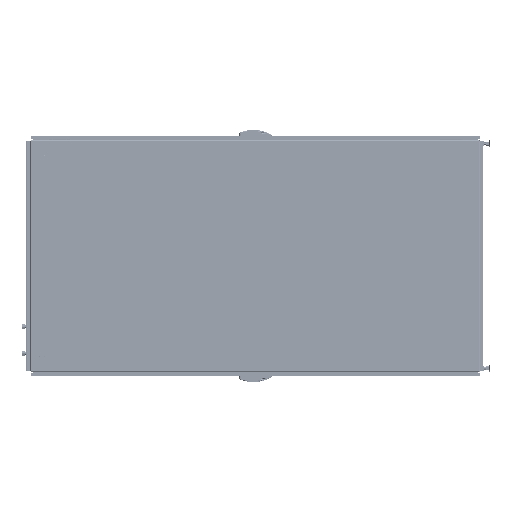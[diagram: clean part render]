
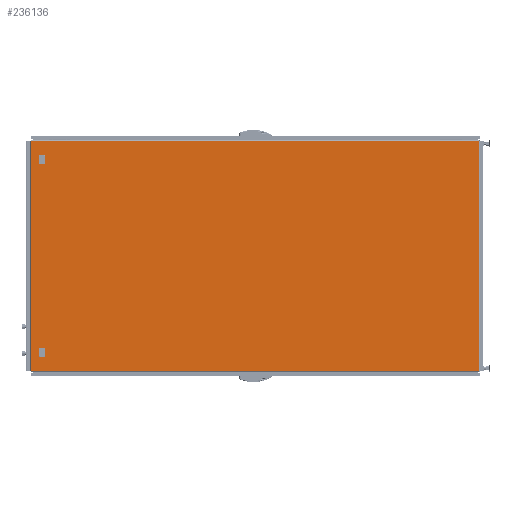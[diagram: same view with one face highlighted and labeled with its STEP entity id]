
A CAD part, left-side view. The second image highlights one B-rep face of the part: STEP entity #236136.
In plain terms, the highlighted planar face has unit normal (-1, 0, 0) as drawn and (0, 0, 1) by its records, which use the part's own axes.
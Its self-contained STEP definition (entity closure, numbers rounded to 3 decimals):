
#841 = CARTESIAN_POINT ( 'NONE',  ( 498.6, 2193.003, 0. ) ) ;
#6902 = CARTESIAN_POINT ( 'NONE',  ( -498.6, 2193.003, 0. ) ) ;
#9107 = VERTEX_POINT ( 'NONE', #244060 ) ;
#9882 = VERTEX_POINT ( 'NONE', #210379 ) ;
#10533 = VERTEX_POINT ( 'NONE', #307000 ) ;
#12909 = CARTESIAN_POINT ( 'NONE',  ( -498.6, 2167.603, 0. ) ) ;
#22590 = CARTESIAN_POINT ( 'NONE',  ( 573.779, 2234.682, 0. ) ) ;
#24344 = EDGE_CURVE ( 'NONE', #87011, #228015, #180787, .T. ) ;
#28144 = DIRECTION ( 'NONE',  ( -1., 0., 0. ) ) ;
#29019 = LINE ( 'NONE', #6902, #220629 ) ;
#33389 = DIRECTION ( 'NONE',  ( 1., 0., 0. ) ) ;
#38466 = DIRECTION ( 'NONE',  ( 0., 1., 0. ) ) ;
#43406 = CARTESIAN_POINT ( 'NONE',  ( 573.779, 2234.682, 0. ) ) ;
#45348 = EDGE_CURVE ( 'NONE', #10533, #268043, #153809, .T. ) ;
#48267 = DIRECTION ( 'NONE',  ( 0., -1., 0. ) ) ;
#49331 = LINE ( 'NONE', #277808, #392170 ) ;
#54729 = AXIS2_PLACEMENT_3D ( 'NONE', #393227, #126906, #69271 ) ;
#63655 = ORIENTED_EDGE ( 'NONE', *, *, #24344, .F. ) ;
#67688 = EDGE_LOOP ( 'NONE', ( #275848, #396064, #391924, #131729 ) ) ;
#69271 = DIRECTION ( 'NONE',  ( -1., 0., 0. ) ) ;
#72282 = DIRECTION ( 'NONE',  ( 0., 1., 0. ) ) ;
#73677 = CARTESIAN_POINT ( 'NONE',  ( 573.779, 0., 0. ) ) ;
#81435 = VERTEX_POINT ( 'NONE', #108633 ) ;
#84216 = LINE ( 'NONE', #73677, #159871 ) ;
#87011 = VERTEX_POINT ( 'NONE', #380548 ) ;
#89146 = VECTOR ( 'NONE', #38466, 1000. ) ;
#97143 = CARTESIAN_POINT ( 'NONE',  ( 573.779, 1.524, 0. ) ) ;
#108633 = CARTESIAN_POINT ( 'NONE',  ( 460.5, 2167.603, 0. ) ) ;
#109619 = DIRECTION ( 'NONE',  ( 0., -1., 0. ) ) ;
#114336 = VERTEX_POINT ( 'NONE', #239492 ) ;
#126906 = DIRECTION ( 'NONE',  ( 0., 0., -1. ) ) ;
#128427 = DIRECTION ( 'NONE',  ( 0., 1., 0. ) ) ;
#131437 = CARTESIAN_POINT ( 'NONE',  ( -460.5, 2193.003, 0. ) ) ;
#131729 = ORIENTED_EDGE ( 'NONE', *, *, #257809, .T. ) ;
#131902 = CARTESIAN_POINT ( 'NONE',  ( -573.779, 1.524, 0. ) ) ;
#139563 = ORIENTED_EDGE ( 'NONE', *, *, #45348, .F. ) ;
#141996 = DIRECTION ( 'NONE',  ( -1., 0., 0. ) ) ;
#143085 = LINE ( 'NONE', #131902, #324618 ) ;
#143160 = CARTESIAN_POINT ( 'NONE',  ( 498.6, 2167.603, 0. ) ) ;
#153809 = LINE ( 'NONE', #12909, #163979 ) ;
#154905 = CARTESIAN_POINT ( 'NONE',  ( -460.5, 2167.603, 0. ) ) ;
#159871 = VECTOR ( 'NONE', #72282, 1000. ) ;
#163979 = VECTOR ( 'NONE', #403087, 1000. ) ;
#172944 = VECTOR ( 'NONE', #28144, 1000. ) ;
#174852 = LINE ( 'NONE', #131437, #89146 ) ;
#180416 = EDGE_CURVE ( 'NONE', #81435, #87011, #338857, .T. ) ;
#180787 = LINE ( 'NONE', #191917, #407563 ) ;
#183446 = CARTESIAN_POINT ( 'NONE',  ( -573.779, 2236.206, 0. ) ) ;
#185733 = CARTESIAN_POINT ( 'NONE',  ( -498.6, 2193.003, 0. ) ) ;
#190187 = FACE_BOUND ( 'NONE', #243910, .T. ) ;
#191717 = EDGE_CURVE ( 'NONE', #363682, #114336, #278766, .T. ) ;
#191917 = CARTESIAN_POINT ( 'NONE',  ( 498.6, 2193.003, 0. ) ) ;
#210379 = CARTESIAN_POINT ( 'NONE',  ( -460.5, 2193.003, 0. ) ) ;
#214735 = CARTESIAN_POINT ( 'NONE',  ( -573.779, 1.524, 0. ) ) ;
#218531 = EDGE_CURVE ( 'NONE', #304771, #325530, #143085, .T. ) ;
#220629 = VECTOR ( 'NONE', #109619, 1000. ) ;
#226608 = ORIENTED_EDGE ( 'NONE', *, *, #411816, .F. ) ;
#228015 = VERTEX_POINT ( 'NONE', #841 ) ;
#233582 = VECTOR ( 'NONE', #377816, 1000. ) ;
#236136 = ADVANCED_FACE ( 'NONE', ( #321137, #190187, #371748 ), #297392, .F. ) ;
#237159 = CARTESIAN_POINT ( 'NONE',  ( 460.5, 2193.003, 0. ) ) ;
#239492 = CARTESIAN_POINT ( 'NONE',  ( -573.779, 2234.682, 0. ) ) ;
#243910 = EDGE_LOOP ( 'NONE', ( #139563, #244511, #226608, #340940 ) ) ;
#244060 = CARTESIAN_POINT ( 'NONE',  ( 460.5, 2193.003, 0. ) ) ;
#244411 = EDGE_CURVE ( 'NONE', #9107, #81435, #311817, .T. ) ;
#244511 = ORIENTED_EDGE ( 'NONE', *, *, #346105, .F. ) ;
#251487 = ORIENTED_EDGE ( 'NONE', *, *, #357145, .F. ) ;
#257809 = EDGE_CURVE ( 'NONE', #325530, #363682, #84216, .T. ) ;
#260919 = VECTOR ( 'NONE', #141996, 1000. ) ;
#263978 = LINE ( 'NONE', #183446, #233582 ) ;
#268043 = VERTEX_POINT ( 'NONE', #154905 ) ;
#275848 = ORIENTED_EDGE ( 'NONE', *, *, #191717, .T. ) ;
#276611 = ORIENTED_EDGE ( 'NONE', *, *, #244411, .F. ) ;
#277719 = EDGE_LOOP ( 'NONE', ( #276611, #251487, #63655, #349160 ) ) ;
#277808 = CARTESIAN_POINT ( 'NONE',  ( 498.6, 2193.003, 0. ) ) ;
#278766 = LINE ( 'NONE', #22590, #172944 ) ;
#288168 = VECTOR ( 'NONE', #364454, 1000. ) ;
#297392 = PLANE ( 'NONE',  #54729 ) ;
#304771 = VERTEX_POINT ( 'NONE', #214735 ) ;
#305404 = CARTESIAN_POINT ( 'NONE',  ( -498.6, 2193.003, 0. ) ) ;
#306121 = DIRECTION ( 'NONE',  ( -1., 0., 0. ) ) ;
#307000 = CARTESIAN_POINT ( 'NONE',  ( -498.6, 2167.603, 0. ) ) ;
#311817 = LINE ( 'NONE', #237159, #341816 ) ;
#321137 = FACE_BOUND ( 'NONE', #277719, .T. ) ;
#324618 = VECTOR ( 'NONE', #33389, 1000. ) ;
#325530 = VERTEX_POINT ( 'NONE', #97143 ) ;
#338857 = LINE ( 'NONE', #143160, #288168 ) ;
#340940 = ORIENTED_EDGE ( 'NONE', *, *, #373664, .F. ) ;
#341816 = VECTOR ( 'NONE', #48267, 1000. ) ;
#346105 = EDGE_CURVE ( 'NONE', #403572, #10533, #29019, .T. ) ;
#349160 = ORIENTED_EDGE ( 'NONE', *, *, #180416, .F. ) ;
#357145 = EDGE_CURVE ( 'NONE', #228015, #9107, #49331, .T. ) ;
#363682 = VERTEX_POINT ( 'NONE', #43406 ) ;
#364454 = DIRECTION ( 'NONE',  ( 1., 0., 0. ) ) ;
#371748 = FACE_OUTER_BOUND ( 'NONE', #67688, .T. ) ;
#373664 = EDGE_CURVE ( 'NONE', #268043, #9882, #174852, .T. ) ;
#377816 = DIRECTION ( 'NONE',  ( 0., -1., 0. ) ) ;
#380548 = CARTESIAN_POINT ( 'NONE',  ( 498.6, 2167.603, 0. ) ) ;
#391924 = ORIENTED_EDGE ( 'NONE', *, *, #218531, .T. ) ;
#392170 = VECTOR ( 'NONE', #306121, 1000. ) ;
#393227 = CARTESIAN_POINT ( 'NONE',  ( -575.303, 2236.206, 0. ) ) ;
#396064 = ORIENTED_EDGE ( 'NONE', *, *, #402916, .T. ) ;
#402916 = EDGE_CURVE ( 'NONE', #114336, #304771, #263978, .T. ) ;
#403087 = DIRECTION ( 'NONE',  ( 1., 0., 0. ) ) ;
#403572 = VERTEX_POINT ( 'NONE', #185733 ) ;
#407563 = VECTOR ( 'NONE', #128427, 1000. ) ;
#411816 = EDGE_CURVE ( 'NONE', #9882, #403572, #417266, .T. ) ;
#417266 = LINE ( 'NONE', #305404, #260919 ) ;
